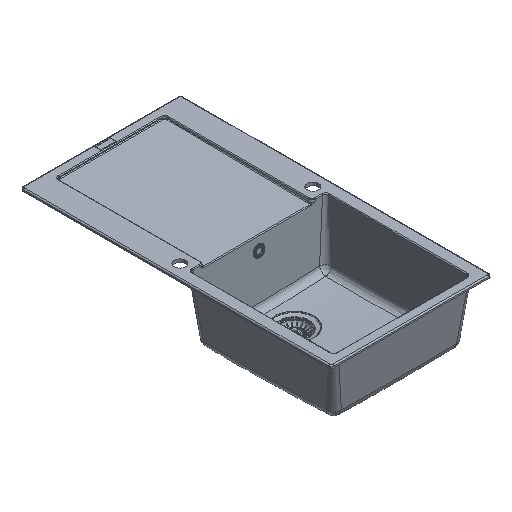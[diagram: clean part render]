
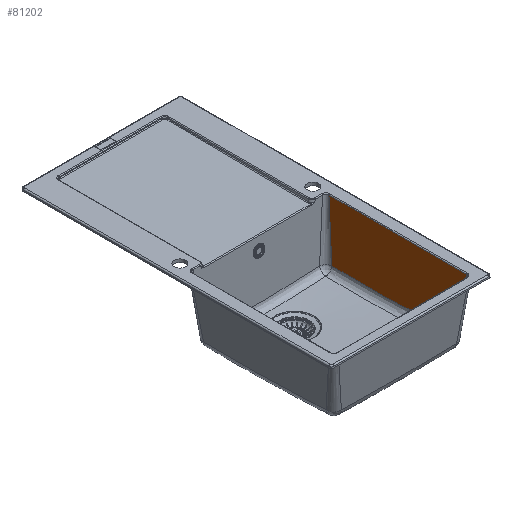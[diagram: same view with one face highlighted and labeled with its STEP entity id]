
A CAD part, isometric view. The second image highlights one B-rep face of the part: STEP entity #81202.
In plain terms, the highlighted planar face has unit normal (-0.996, 0, 0.087).
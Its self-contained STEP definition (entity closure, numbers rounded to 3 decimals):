
#669=B_SPLINE_CURVE_WITH_KNOTS('',3,(#122646,#122647,#122648,#122649,#122650,
#122651,#122652,#122653,#122654,#122655,#122656,#122657,#122658,#122659,
#122660,#122661,#122662,#122663,#122664,#122665),.UNSPECIFIED.,.F.,.F.,
(4,2,2,2,2,2,2,2,2,4),(0.,0.002,0.251,0.376,
0.5,0.625,0.749,0.874,
0.998,1.),.UNSPECIFIED.);
#5071=LINE('',#120769,#11211);
#5072=LINE('',#121544,#11212);
#5077=LINE('',#121741,#11217);
#11211=VECTOR('',#93761,25.4);
#11212=VECTOR('',#93772,10.);
#11217=VECTOR('',#93785,10.);
#17768=PLANE('',#85982);
#20139=FACE_OUTER_BOUND('',#24715,.T.);
#24715=EDGE_LOOP('',(#54625,#54626,#54627,#54628));
#32868=VERTEX_POINT('',#119727);
#32882=VERTEX_POINT('',#120553);
#32887=VERTEX_POINT('',#121458);
#32890=VERTEX_POINT('',#121651);
#41098=EDGE_CURVE('',#32882,#32868,#5071,.T.);
#41104=EDGE_CURVE('',#32868,#32887,#5072,.T.);
#41111=EDGE_CURVE('',#32890,#32882,#5077,.T.);
#41119=EDGE_CURVE('',#32890,#32887,#669,.T.);
#54625=ORIENTED_EDGE('',*,*,#41119,.F.);
#54626=ORIENTED_EDGE('',*,*,#41111,.T.);
#54627=ORIENTED_EDGE('',*,*,#41098,.T.);
#54628=ORIENTED_EDGE('',*,*,#41104,.T.);
#81202=ADVANCED_FACE('',(#20139),#17768,.T.);
#85982=AXIS2_PLACEMENT_3D('',#122645,#93791,#93792);
#93761=DIRECTION('',(0.,1.,0.));
#93772=DIRECTION('',(-0.086,-0.138,-0.987));
#93785=DIRECTION('',(0.086,-0.14,0.986));
#93791=DIRECTION('center_axis',(-0.996,0.,
0.087));
#93792=DIRECTION('ref_axis',(0.,-1.,0.));
#119727=CARTESIAN_POINT('',(200.51,-15.326,-2.282));
#120553=CARTESIAN_POINT('',(200.51,-444.667,-2.282));
#120769=CARTESIAN_POINT('',(200.51,-230.,-2.282));
#121458=CARTESIAN_POINT('',(185.432,-39.403,-174.627));
#121544=CARTESIAN_POINT('',(200.51,-15.326,-2.282));
#121651=CARTESIAN_POINT('',(186.144,-421.343,-166.492));
#121741=CARTESIAN_POINT('',(186.144,-421.343,-166.492));
#122645=CARTESIAN_POINT('Origin',(183.212,-4.868,-200.));
#122646=CARTESIAN_POINT('Ctrl Pts',(186.144,-421.343,
-166.492));
#122647=CARTESIAN_POINT('Ctrl Pts',(186.143,-421.064,-166.504));
#122648=CARTESIAN_POINT('Ctrl Pts',(186.141,-420.786,-166.517));
#122649=CARTESIAN_POINT('Ctrl Pts',(186.015,-388.798,-167.963));
#122650=CARTESIAN_POINT('Ctrl Pts',(185.894,-357.086,-169.342));
#122651=CARTESIAN_POINT('Ctrl Pts',(185.729,-309.518,-171.233));
#122652=CARTESIAN_POINT('Ctrl Pts',(185.676,-293.666,-171.833));
#122653=CARTESIAN_POINT('Ctrl Pts',(185.579,-261.965,-172.941));
#122654=CARTESIAN_POINT('Ctrl Pts',(185.535,-246.117,-173.449));
#122655=CARTESIAN_POINT('Ctrl Pts',(185.458,-214.426,-174.329));
#122656=CARTESIAN_POINT('Ctrl Pts',(185.425,-198.582,-174.701));
#122657=CARTESIAN_POINT('Ctrl Pts',(185.377,-166.902,-175.257));
#122658=CARTESIAN_POINT('Ctrl Pts',(185.361,-151.064,-175.441));
#122659=CARTESIAN_POINT('Ctrl Pts',(185.348,-119.391,-175.583));
#122660=CARTESIAN_POINT('Ctrl Pts',(185.352,-103.555,-175.542));
#122661=CARTESIAN_POINT('Ctrl Pts',(185.378,-71.88,
-175.243));
#122662=CARTESIAN_POINT('Ctrl Pts',(185.4,-56.041,-174.987));
#122663=CARTESIAN_POINT('Ctrl Pts',(185.431,-39.937,
-174.639));
#122664=CARTESIAN_POINT('Ctrl Pts',(185.431,-39.67,
-174.633));
#122665=CARTESIAN_POINT('Ctrl Pts',(185.432,-39.403,
-174.627));
